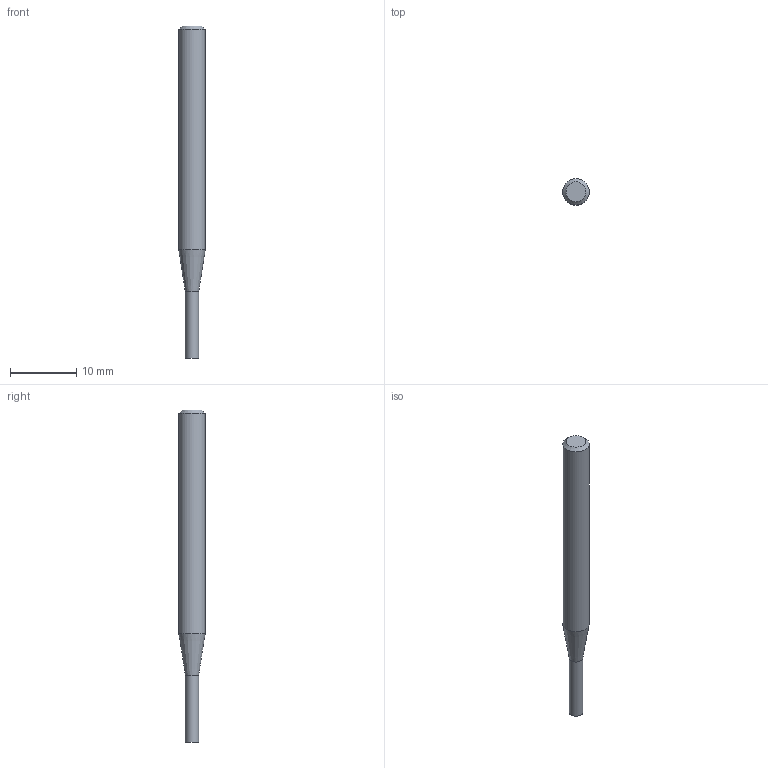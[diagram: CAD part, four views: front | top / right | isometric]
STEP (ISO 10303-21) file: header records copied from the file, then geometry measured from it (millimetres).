
FILE_DESCRIPTION((''),'2;1');
FILE_NAME('C:\Users\nsx150\Desktop\RSE230_20210427\01-00644-02001 RSE230 D2X10.step','2021-05-07T14:53:37',(''),(''),'STEP Write','Mastercam 2021 ... CNC Software, Inc.','');
FILE_SCHEMA(('AUTOMOTIVE_DESIGN'));
Length unit declared in the file: millimetre
Products named in the file (1): None
Bounding box: 4 x 4 x 50 mm (x, y, z)
Volume: 499.6 mm3; surface area: 564.4 mm2
Topology: 2 solids, 2 shells, 8 faces, 10 edges, 6 vertices
Faces by surface type: plane 4, cylinder 2, cone 2
Full cylindrical faces by diameter (mm): 2 x1, 4 x1
Entity records: 190 total; most frequent: DIRECTION 32, CARTESIAN_POINT 22, AXIS2_PLACEMENT_3D 16, ORIENTED_EDGE 12, EDGE_LOOP 12, STYLED_ITEM 11, ADVANCED_FACE 8, VERTEX_POINT 6
